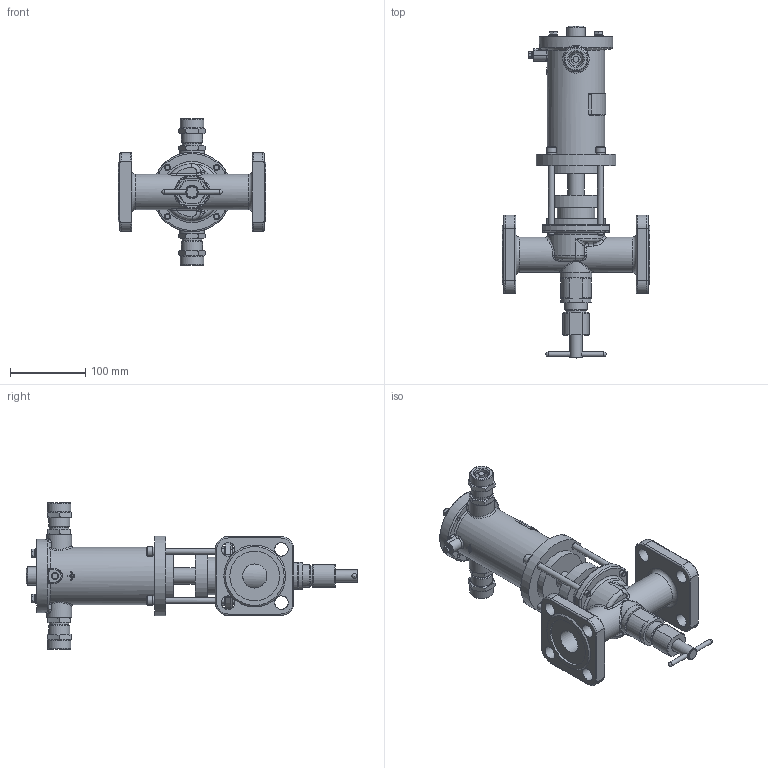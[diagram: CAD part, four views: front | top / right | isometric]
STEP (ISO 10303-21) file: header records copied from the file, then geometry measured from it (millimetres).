
FILE_DESCRIPTION(('STEP AP203'), '1');
FILE_NAME('ÑÅÍÑ DN32PN25-Â-200Ñ-ÑÂ.stp', '2018-09-19T08:48:03', ('Îðëîâ Å.Â.'), ('ÎÎÎ ÍÏÏ Ñåíñîð'), 'ASCON STEP Converter 1.3', 'Kompas 3D', '');
FILE_SCHEMA(('CONFIG_CONTROL_DESIGN','SUPPORT_RESOURCE_SCHEMA'));
Length unit declared in the file: millimetre
Products named in the file (1): 58
Bounding box: 196 x 440.5 x 194 mm (x, y, z)
Volume: 1245537.3 mm3; surface area: 365094.2 mm2
Topology: 3 solids, 20 shells, 2005 faces, 5275 edges, 3418 vertices
Faces by surface type: cylinder 1022, plane 733, cone 130, torus 52, bspline 50, extrusion 16, sphere 2
Full cylindrical faces by diameter (mm): 3.5 x2, 4.134 x1, 4.917 x4, 5 x1, 6 x13, 6.2 x1, 6.5 x4, 8 x12, 8.2 x1, 9 x5, 10 x1, 11 x1, 12 x4, 13 x6, 16 x3, 17 x2, 18 x9, 18.632 x2, 19.9 x1, 20 x2, 21 x1, 22 x3, 22.376 x2, 23 x1, 23.5 x2, 24 x3, 24.5 x2, 26 x4, 26.376 x2, 27.8 x1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
Entity records: 76636 total; most frequent: CARTESIAN_POINT 26089, DIRECTION 10948, ORIENTED_EDGE 10476, EDGE_CURVE 5238, AXIS2_PLACEMENT_3D 4215, VERTEX_POINT 3410, VECTOR 2518, LINE 2502
